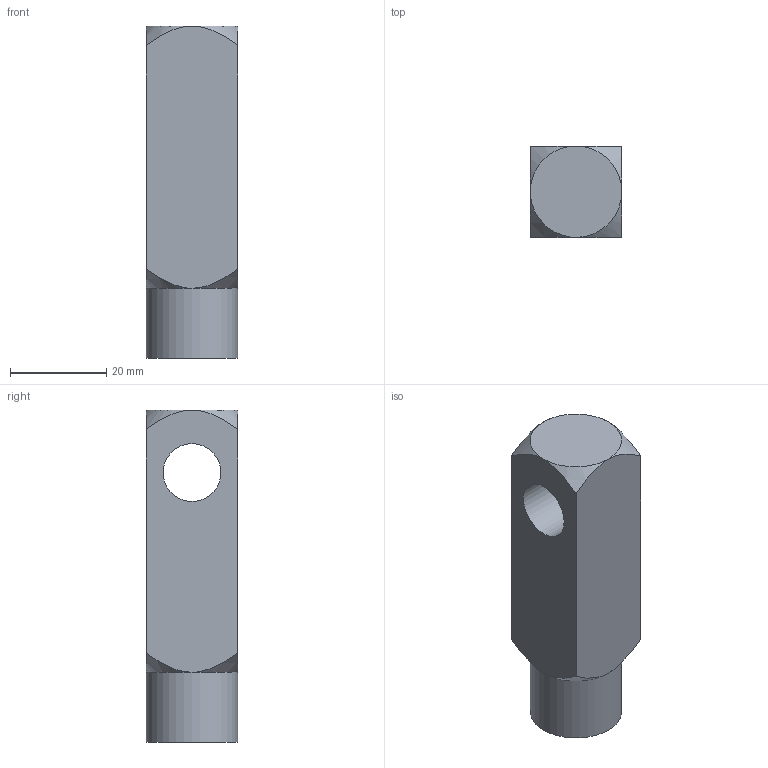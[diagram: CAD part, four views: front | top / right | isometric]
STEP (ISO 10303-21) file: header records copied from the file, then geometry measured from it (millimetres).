
FILE_DESCRIPTION(/* description */ ('Unknown'),/* implementation_level */ '2;1');
FILE_NAME(/* name */ 'WA40_I',/* time_stamp */ '2026-07-17T17:01:34+08:00',/* author */ ('Unknown'),/* organization */ ('Unknown'),/* preprocessor_version */ 'ST-DEVELOPER v16.7',/* originating_system */ 'DEX',/* authorisation */ $);
FILE_SCHEMA (('CONFIG_CONTROL_DESIGN'));
Length unit declared in the file: millimetre
Products named in the file (1): WA40_I
Bounding box: 19 x 19 x 69 mm (x, y, z)
Volume: 19397.3 mm3; surface area: 6820.8 mm2
Topology: 1 solids, 1 shells, 15 faces, 35 edges, 22 vertices
Faces by surface type: plane 6, cone 6, cylinder 3
Full cylindrical faces by diameter (mm): 10.647 x1, 12 x1, 19 x1
Entity records: 551 total; most frequent: CARTESIAN_POINT 133, DIRECTION 56, ORIENTED_EDGE 52, EDGE_CURVE 26, AXIS2_PLACEMENT_3D 26, FACE_BOUND 23, EDGE_LOOP 22, VERTEX_POINT 19
